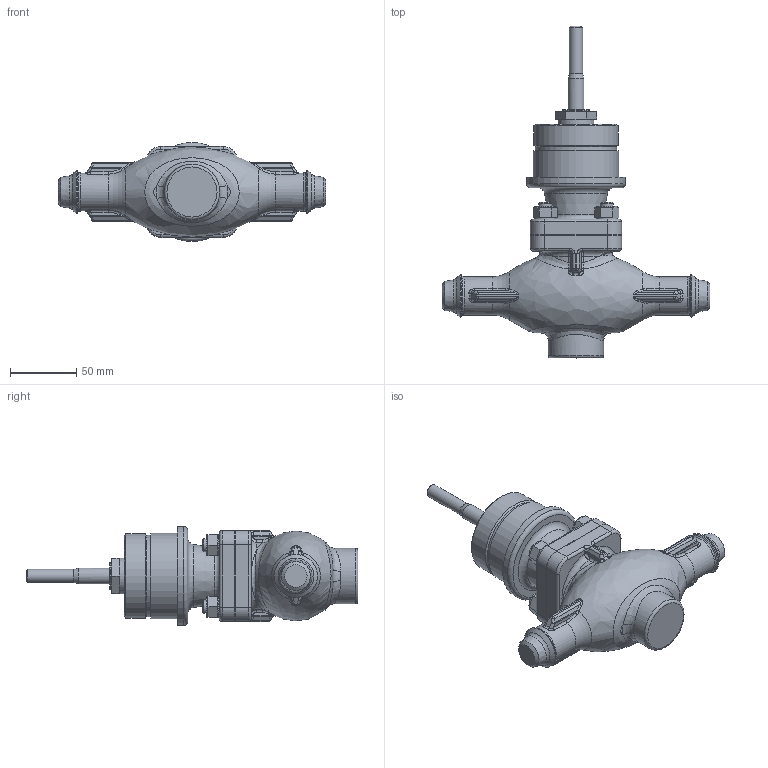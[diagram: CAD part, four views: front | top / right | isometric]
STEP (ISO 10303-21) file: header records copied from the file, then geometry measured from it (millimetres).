
FILE_DESCRIPTION(/* description */ (''),/* implementation_level */ '2;1');
FILE_NAME(/* name */ 'CV3xx_NPS_1_2_privarovaci.stp',/* time_stamp */ '2014-01-07T07:32:36+01:00',/* author */ (''),/* organization */ ('LDM'),/* preprocessor_version */ 'ST-DEVELOPER v11',/* originating_system */ 'SIEMENS PLM Software NX 7.0',/* authorisation */ '');
FILE_SCHEMA (('CONFIG_CONTROL_DESIGN'));
Length unit declared in the file: millimetre
Products named in the file (1): adamED63yt1p
Bounding box: 203 x 251.47 x 75 mm (x, y, z)
Volume: 713900.3 mm3; surface area: 74872.8 mm2
Topology: 1 solids, 4 shells, 464 faces, 1051 edges, 592 vertices
Faces by surface type: cylinder 124, plane 107, bspline 94, cone 80, torus 35, sphere 24
Full cylindrical faces by diameter (mm): 10 x12, 11 x1, 12 x1, 16 x8, 21 x1, 27 x1, 29 x2, 42 x1, 48 x1, 61.6 x1, 64 x1, 65 x1, 75 x1
Entity records: 14476 total; most frequent: CARTESIAN_POINT 5306, ORIENTED_EDGE 1858, DIRECTION 1812, EDGE_CURVE 929, AXIS2_PLACEMENT_3D 793, EDGE_LOOP 566, VERTEX_POINT 561, ADVANCED_FACE 464
